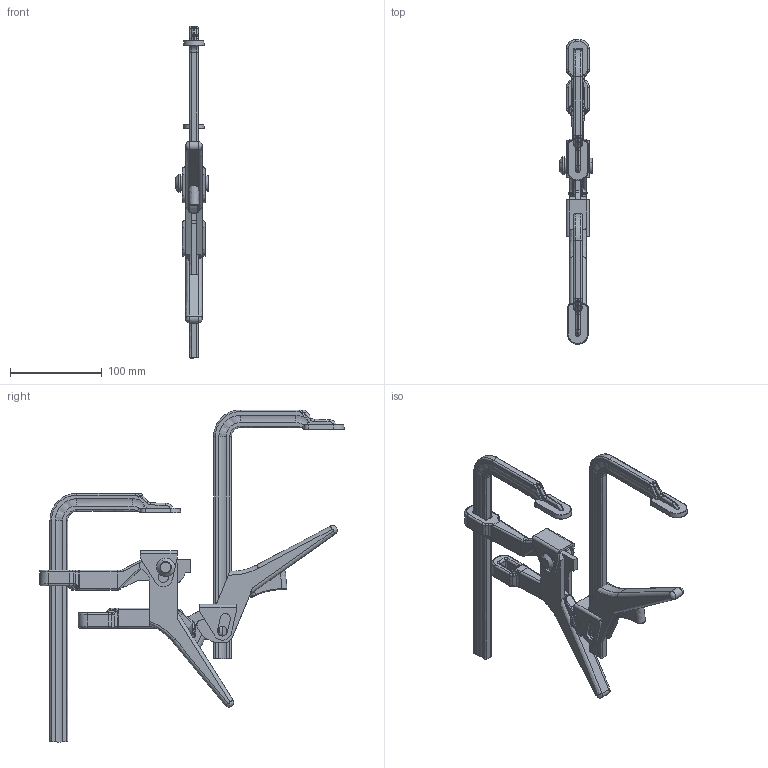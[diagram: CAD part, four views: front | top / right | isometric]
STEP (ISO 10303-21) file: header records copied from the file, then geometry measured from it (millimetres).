
FILE_DESCRIPTION( ( 'STEP AP214' ), '1' );
FILE_NAME( 'X:/CAD_Daten_Platzhalter/G20H.stp', ' ', ( ' ' ), ( ' ' ), 'PSStep 11.0', ' ', ' ' );
FILE_SCHEMA( ( 'AUTOMOTIVE_DESIGN { 1 0 10303 214 1 1 1 1 }' ) );
Length unit declared in the file: metre
Products named in the file (6): G20H; PartBody_2; PartBody_3; PartBody_4; PartBody_5; PartBody
Bounding box: 37 x 332.41 x 362.17 mm (x, y, z)
Volume: 363080.8 mm3; surface area: 122261.2 mm2
Topology: 10 solids, 10 shells, 688 faces, 1830 edges, 1108 vertices
Faces by surface type: bspline 688
Entity records: 22613 total; most frequent: CARTESIAN_POINT 14696, ORIENTED_EDGE 1768, EDGE_CURVE 884, B_SPLINE_CURVE_WITH_KNOTS 631, VERTEX_POINT 554, EDGE_LOOP 360, STYLED_ITEM 344, PRESENTATION_STYLE_ASSIGNMENT 344
